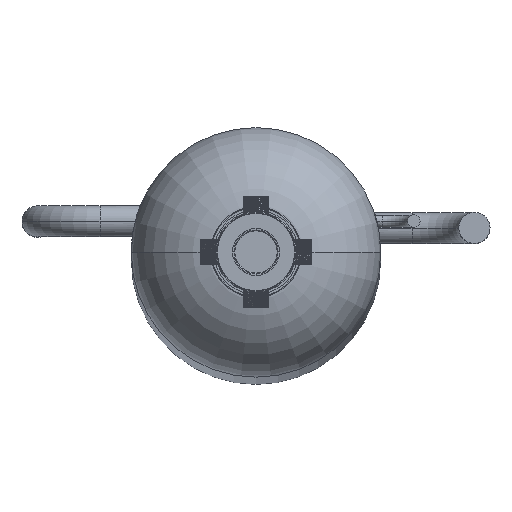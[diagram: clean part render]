
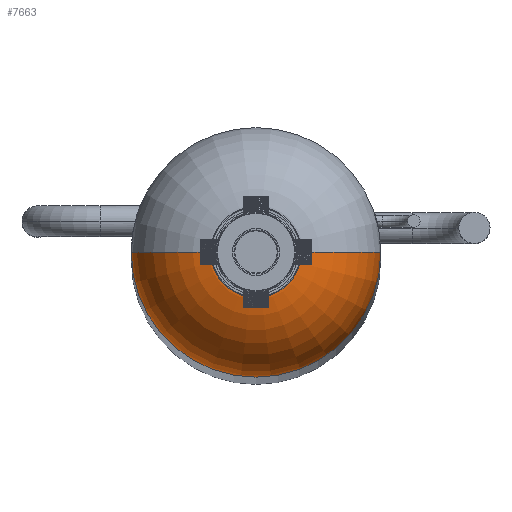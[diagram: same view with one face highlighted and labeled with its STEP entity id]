
A CAD part, top view. The second image highlights one B-rep face of the part: STEP entity #7663.
In plain terms, the highlighted toroidal (fillet/blend) face has major radius 10 mm and minor radius 30 mm.
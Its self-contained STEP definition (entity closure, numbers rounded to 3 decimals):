
#658 = CARTESIAN_POINT ( 'NONE',  ( 0., 0., 695. ) ) ;
#3010 = CARTESIAN_POINT ( 'NONE',  ( 10., 0., 695. ) ) ;
#3701 = ORIENTED_EDGE ( 'NONE', *, *, #17666, .F. ) ;
#4474 = AXIS2_PLACEMENT_3D ( 'NONE', #37509, #25395, #42381 ) ;
#4710 = EDGE_CURVE ( 'NONE', #29609, #44457, #41140, .T. ) ;
#4738 = DIRECTION ( 'NONE',  ( 0., 0., -1. ) ) ;
#5805 = ORIENTED_EDGE ( 'NONE', *, *, #4710, .F. ) ;
#7225 = CIRCLE ( 'NONE', #4474, 30. ) ;
#7663 = ADVANCED_FACE ( 'NONE', ( #12103 ), #33484, .T. ) ;
#7784 = DIRECTION ( 'NONE',  ( 1., 0., 0. ) ) ;
#8766 = DIRECTION ( 'NONE',  ( 1., 0., 0. ) ) ;
#9866 = EDGE_CURVE ( 'NONE', #20654, #15575, #42237, .T. ) ;
#12103 = FACE_OUTER_BOUND ( 'NONE', #34099, .T. ) ;
#15575 = VERTEX_POINT ( 'NONE', #18247 ) ;
#17399 = AXIS2_PLACEMENT_3D ( 'NONE', #52507, #4738, #8766 ) ;
#17666 = EDGE_CURVE ( 'NONE', #15575, #29609, #7225, .T. ) ;
#17906 = ORIENTED_EDGE ( 'NONE', *, *, #9866, .F. ) ;
#18247 = CARTESIAN_POINT ( 'NONE',  ( -40., 0., 665. ) ) ;
#19702 = AXIS2_PLACEMENT_3D ( 'NONE', #43188, #47217, #7784 ) ;
#20654 = VERTEX_POINT ( 'NONE', #45226 ) ;
#25079 = AXIS2_PLACEMENT_3D ( 'NONE', #48686, #36602, #27688 ) ;
#25395 = DIRECTION ( 'NONE',  ( 0., 1., 0. ) ) ;
#25962 = CIRCLE ( 'NONE', #25079, 30. ) ;
#27688 = DIRECTION ( 'NONE',  ( 0., 0., -1. ) ) ;
#29609 = VERTEX_POINT ( 'NONE', #49178 ) ;
#31731 = AXIS2_PLACEMENT_3D ( 'NONE', #658, #53594, #53308 ) ;
#33484 = TOROIDAL_SURFACE ( 'NONE', #19702, 10., 30. ) ;
#33719 = ORIENTED_EDGE ( 'NONE', *, *, #54121, .T. ) ;
#34099 = EDGE_LOOP ( 'NONE', ( #3701, #17906, #33719, #5805 ) ) ;
#36602 = DIRECTION ( 'NONE',  ( 0., -1., 0. ) ) ;
#37509 = CARTESIAN_POINT ( 'NONE',  ( -10., 0., 665. ) ) ;
#41140 = CIRCLE ( 'NONE', #31731, 10. ) ;
#42237 = CIRCLE ( 'NONE', #17399, 40. ) ;
#42381 = DIRECTION ( 'NONE',  ( -1., 0., 0. ) ) ;
#43188 = CARTESIAN_POINT ( 'NONE',  ( 0., 0., 665. ) ) ;
#44457 = VERTEX_POINT ( 'NONE', #3010 ) ;
#45226 = CARTESIAN_POINT ( 'NONE',  ( 40., 0., 665. ) ) ;
#47217 = DIRECTION ( 'NONE',  ( 0., 0., 1. ) ) ;
#48686 = CARTESIAN_POINT ( 'NONE',  ( 10., 0., 665. ) ) ;
#49178 = CARTESIAN_POINT ( 'NONE',  ( -10., 0., 695. ) ) ;
#52507 = CARTESIAN_POINT ( 'NONE',  ( 0., 0., 665. ) ) ;
#53308 = DIRECTION ( 'NONE',  ( 1., 0., 0. ) ) ;
#53594 = DIRECTION ( 'NONE',  ( 0., 0., 1. ) ) ;
#54121 = EDGE_CURVE ( 'NONE', #20654, #44457, #25962, .T. ) ;
